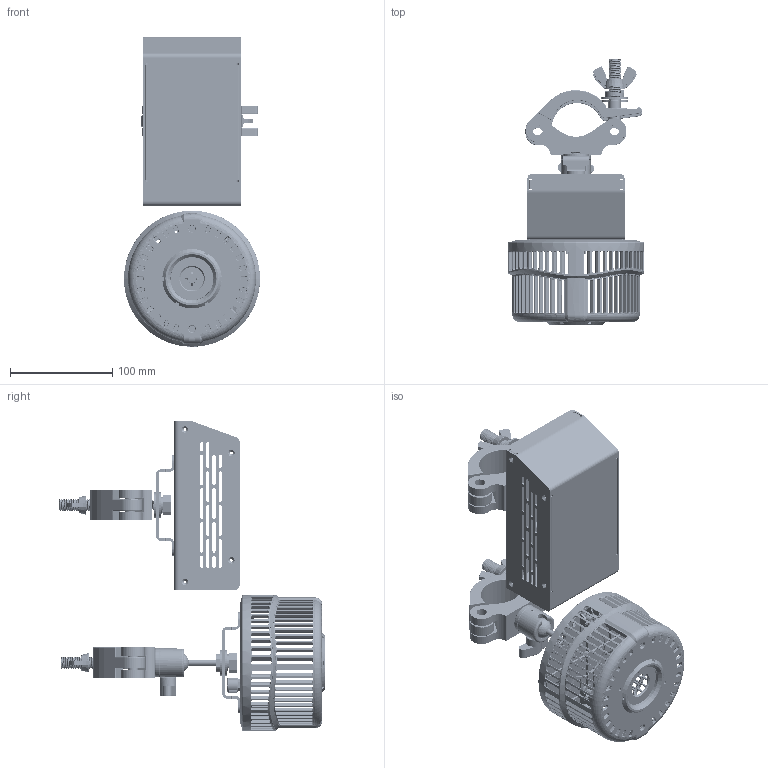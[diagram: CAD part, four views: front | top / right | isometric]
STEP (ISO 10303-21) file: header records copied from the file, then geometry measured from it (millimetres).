
FILE_DESCRIPTION (( 'STEP AP214' ), '1' );
FILE_NAME ('W500X-CLP-PS.STEP', '2024-01-31T17:52:19', ( '' ), ( '' ), 'SwSTEP 2.0', 'SolidWorks 2022', '' );
FILE_SCHEMA (( 'AUTOMOTIVE_DESIGN' ));
Length unit declared in the file: millimetre
Products named in the file (26): 5020893-2010525020_ _Flat Washer, M10, ID10.5 OD25.0, T2 SUS 304___; 62280-231A025_ _SCREW, M10xP1.5 L25mm_Original; 5120530-XXX_A1_Assembly BOM, W500 Reflector Type_No Reflector; 5022431-XXX_A1_Ball Joint Part A, L=23.7mm___; 5022427-XXX_A4_250W Power Box FRAME (TG&TEX&CLP TYPE), 165x95x64mm___; W500X-CLP-PS; 5020897-2010216520_ _Helical Spring Washer Customized___; 5120529-XXX_A1_Assembly BOM, W500 Light Engine_Finish; 5022405-XXX_A1_Wing Knob Screws, M6xL8.0mm_-001; 5021926-XXX_A2_KNOB, 18T, OD=14.9, ID=6, L=10MM_C1; 5021416_A1_Hex Nut, M10xP1.5, T8 SUS___; 5022430-XXX_A1_Ball Joint Part C (For TDE), L=18.9mm___; 5120540-XXX_A1_Rear Panel, OD=133, T=13.65mm, W-Series_5120531-001 W500; 62282-5014005_ _Standard Types of Metric Set Screws, M4xL5, Black___; 5021736-006_A2_Aluminum Hook, M10, Black_For W500-CLP-PS; 5022708-XXX_A2_Ball Joint Axis, L=65.8mm___; 5022424-XXX_A2_250W Power Box Cover (TG&TEX-PS&CLP&TJ TYPE), 165x92x62.5(H)mm___; 5020757-002_A2_VR Washer, Kessil A360 Aquarium Light___; 62280-231A030_ _SCREW, M10xP1.5 L30mm_Original; 5010177-XXX_A2_Assembly BOM, Kessil W500_N-[TG]; 5120522-XXX_A4_Assembly BOM, W360&W500 Light Mounting Type_TG; 5022693-XXX_A1_Bracket, 98.85x25x17.5, T=2.5mm___; 5020757-001_A1_VR Nut, Kessil A360 Aquarium Light___; 5022189_A1_Plate, OD=48, ID=23, T=2.0mm___; 5120539-XXX_A1_Housing, OD=133, ID=121, T=78.1mm, For Reflector, Without Logo___; 5120519-XXX_A3_Assembly BOM, Kessil W500 Power Box_TON(US)-PS
Assembly tree (35 placements, depth 4):
  W500X-CLP-PS
    5010177-XXX_A2_Assembly BOM, Kessil W500_N-[TG]
      5120529-XXX_A1_Assembly BOM, W500 Light Engine_Finish
        5120540-XXX_A1_Rear Panel, OD=133, T=13.65mm, W-Series_5120531-001 W500
        5020757-002_A2_VR Washer, Kessil A360 Aquarium Light___  x2
        5020757-001_A1_VR Nut, Kessil A360 Aquarium Light___  x2
        5021926-XXX_A2_KNOB, 18T, OD=14.9, ID=6, L=10MM_C1  x2
      5120530-XXX_A1_Assembly BOM, W500 Reflector Type_No Reflector
        5120539-XXX_A1_Housing, OD=133, ID=121, T=78.1mm, For Reflector, Without Logo___
        5022189_A1_Plate, OD=48, ID=23, T=2.0mm___
      5120522-XXX_A4_Assembly BOM, W360&W500 Light Mounting Type_TG
        5022431-XXX_A1_Ball Joint Part A, L=23.7mm___
        5022430-XXX_A1_Ball Joint Part C (For TDE), L=18.9mm___
        5022708-XXX_A2_Ball Joint Axis, L=65.8mm___
        62282-5014005_ _Standard Types of Metric Set Screws, M4xL5, Black___
        5022405-XXX_A1_Wing Knob Screws, M6xL8.0mm_-001
        5022693-XXX_A1_Bracket, 98.85x25x17.5, T=2.5mm___
        5021736-006_A2_Aluminum Hook, M10, Black_For W500-CLP-PS
        62280-231A025_ _SCREW, M10xP1.5 L25mm_Original
        5020893-2010525020_ _Flat Washer, M10, ID10.5 OD25.0, T2 SUS 304___  x2
        5020897-2010216520_ _Helical Spring Washer Customized___
        5021416_A1_Hex Nut, M10xP1.5, T8 SUS___
    5120519-XXX_A3_Assembly BOM, Kessil W500 Power Box_TON(US)-PS
      5022427-XXX_A4_250W Power Box FRAME (TG&TEX&CLP TYPE), 165x95x64mm___
      5021736-006_A2_Aluminum Hook, M10, Black_For W500-CLP-PS
      62280-231A030_ _SCREW, M10xP1.5 L30mm_Original
      5020893-2010525020_ _Flat Washer, M10, ID10.5 OD25.0, T2 SUS 304___  x2
      5022693-XXX_A1_Bracket, 98.85x25x17.5, T=2.5mm___
      5020897-2010216520_ _Helical Spring Washer Customized___
      5021416_A1_Hex Nut, M10xP1.5, T8 SUS___
      5022424-XXX_A2_250W Power Box Cover (TG&TEX-PS&CLP&TJ TYPE), 165x92x62.5(H)mm___
Bounding box: 133 x 260.47 x 302.67 mm (x, y, z)
Volume: 433718.1 mm3; surface area: 362373.9 mm2
Topology: 46 solids, 46 shells, 6076 faces, 16578 edges, 10486 vertices
Faces by surface type: cylinder 2302, plane 2064, bspline 837, cone 424, torus 403, sphere 46
Entity records: 257317 total; most frequent: CARTESIAN_POINT 123404, ORIENTED_EDGE 28902, DIRECTION 24005, EDGE_CURVE 14451, VERTEX_POINT 9122, AXIS2_PLACEMENT_3D 8947, LINE 6111, VECTOR 6111
